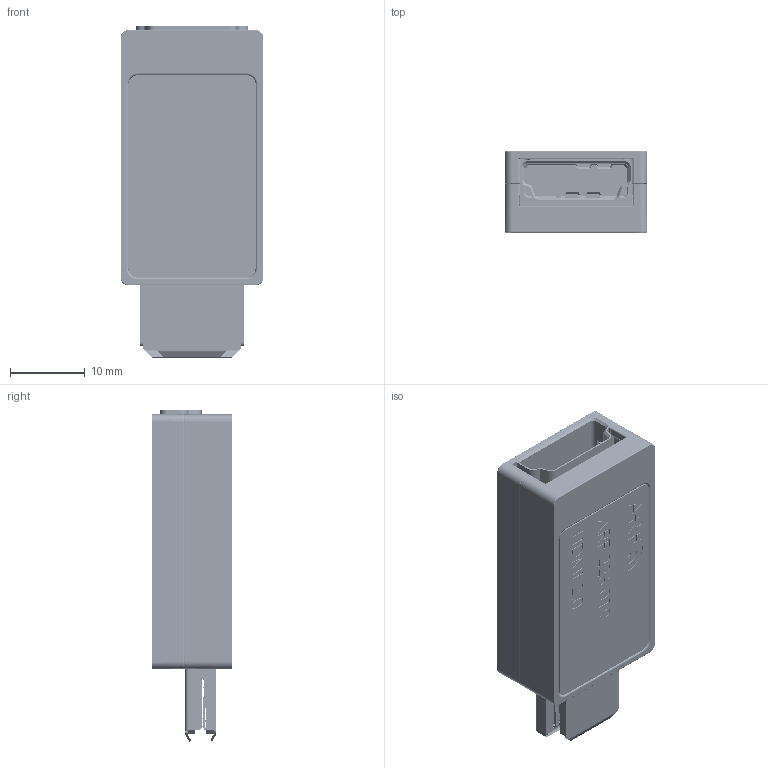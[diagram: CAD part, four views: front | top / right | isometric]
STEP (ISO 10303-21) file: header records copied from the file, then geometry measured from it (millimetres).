
FILE_DESCRIPTION (( 'STEP AP214' ), '1' );
FILE_NAME ('ARF 226 019 HDMI 2.0.STEP', '2024-05-03T13:46:19', ( '' ), ( '' ), 'SwSTEP 2.0', 'SolidWorks 2015', '' );
FILE_SCHEMA (( 'AUTOMOTIVE_DESIGN' ));
Length unit declared in the file: millimetre
Products named in the file (16): 8022_122-moulage-v2; 8022_124-moulage-v1; 8022_123-moulage-v1; 8022_112-v3; 8022_702-v7-b; 8022_012-top_hdmi-v1; 8022_072-v7-b; 8022_702-v7-t; 8022_184; 8022_010-bottom_hdmi-v1; 8022_072-v7-t; 8017_134; fts-117-01-f-s_recoupe; kls1-284; ARF 226 019 HDMI 2.0; 8022_114
Assembly tree (34 placements, depth 3):
  ARF 226 019 HDMI 2.0
    8022_010-bottom_hdmi-v1
      8022_123-moulage-v1
      8022_184
    8022_072-v7-b
      8022_702-v7-b
      8022_114
      kls1-284
      8017_134  x9
    8022_122-moulage-v2
    fts-117-01-f-s_recoupe
    8022_072-v7-t
      8022_702-v7-t
      8017_134  x10
      8022_112-v3
    8022_012-top_hdmi-v1
      8022_124-moulage-v1
      8022_184
Bounding box: 19.11 x 10.8 x 44.38 mm (x, y, z)
Volume: 5322.5 mm3; surface area: 12575.7 mm2
Topology: 30 solids, 30 shells, 6507 faces, 17196 edges, 10598 vertices
Faces by surface type: plane 2668, cylinder 2031, bspline 1254, torus 262, sphere 208, cone 84
Entity records: 182326 total; most frequent: CARTESIAN_POINT 64459, ORIENTED_EDGE 24880, DIRECTION 21447, EDGE_CURVE 12440, VERTEX_POINT 7586, AXIS2_PLACEMENT_3D 7425, VECTOR 6597, LINE 6597
